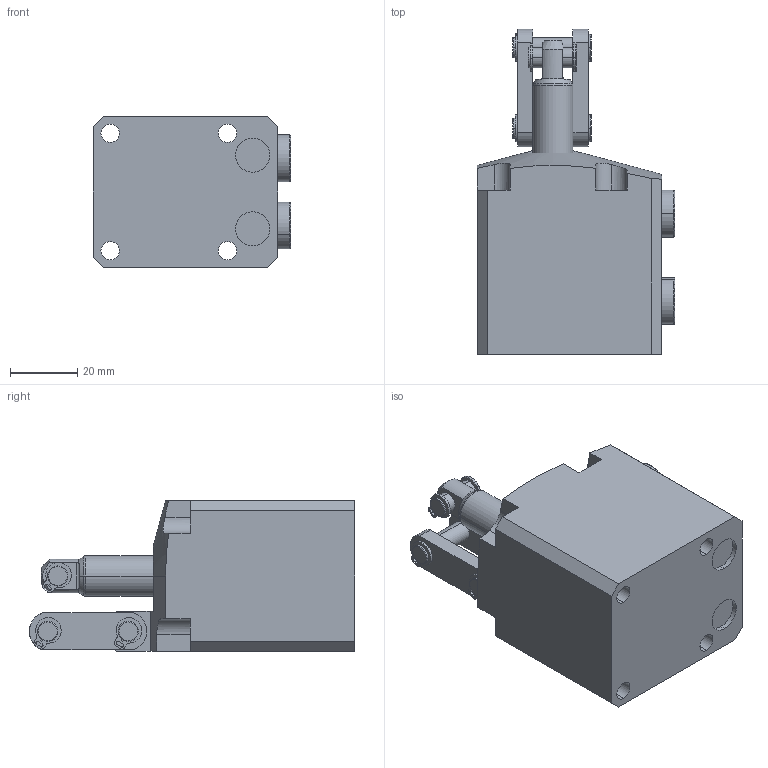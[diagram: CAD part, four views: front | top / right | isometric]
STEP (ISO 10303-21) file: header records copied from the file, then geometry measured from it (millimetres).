
FILE_DESCRIPTION(/* description */ (''),/* implementation_level */ '2;1');
FILE_NAME(/* name */ 'BPC02-R.stp',/* time_stamp */ '2025-01-05T10:05:28+08:00',/* author */ (''),/* organization */ (''),/* preprocessor_version */ 'ST-DEVELOPER v16.7',/* originating_system */ 'SIEMENS PLM Software NX 12.0',/* authorisation */ '');
FILE_SCHEMA (('AUTOMOTIVE_DESIGN { 1 0 10303 214 3 1 1 1 }'));
Length unit declared in the file: millimetre
Products named in the file (5): BPC02-R-03; BPC02-R-01; BPC02-R-02; BPC02-R-04; BPC02-R_stp
Assembly tree (5 placements, depth 2):
  BPC02-R_stp
    BPC02-R-04  x2
    BPC02-R-02
    BPC02-R-01
    BPC02-R-03
Bounding box: 58.8 x 96.99 x 45 mm (x, y, z)
Volume: 141570.5 mm3; surface area: 27530.5 mm2
Topology: 5 solids, 5 shells, 271 faces, 676 edges, 434 vertices
Faces by surface type: plane 127, cylinder 107, torus 20, cone 17
Entity records: 7767 total; most frequent: CARTESIAN_POINT 1440, DIRECTION 1366, ORIENTED_EDGE 1260, EDGE_CURVE 630, AXIS2_PLACEMENT_3D 507, VERTEX_POINT 406, LINE 352, VECTOR 352
